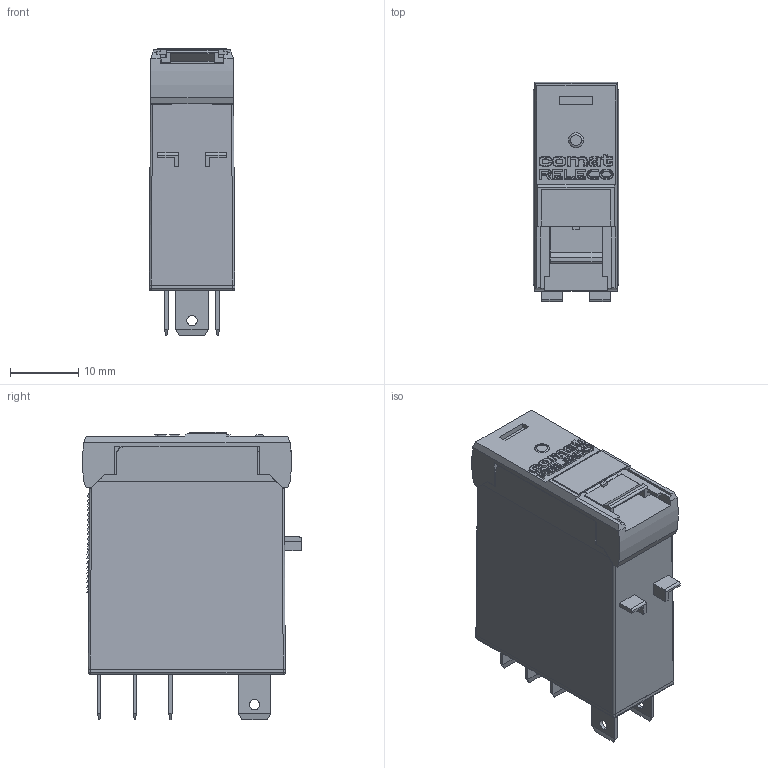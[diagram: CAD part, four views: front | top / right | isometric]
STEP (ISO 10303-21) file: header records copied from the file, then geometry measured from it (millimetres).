
FILE_DESCRIPTION (( 'STEP AP214' ), '1' );
FILE_NAME ('R10.STEP', '2024-03-26T09:46:25', ( '' ), ( '' ), 'SwSTEP 2.0', 'SolidWorks 2022', '' );
FILE_SCHEMA (( 'AUTOMOTIVE_DESIGN' ));
Length unit declared in the file: millimetre
Products named in the file (1): R10
Bounding box: 12.5 x 32.03 x 41.99 mm (x, y, z)
Volume: 12281.7 mm3; surface area: 4850.1 mm2
Topology: 1 solids, 1 shells, 1154 faces, 3158 edges, 2041 vertices
Faces by surface type: plane 923, cylinder 121, bspline 108, torus 2
Entity records: 39072 total; most frequent: CARTESIAN_POINT 10586, ORIENTED_EDGE 6308, DIRECTION 5089, EDGE_CURVE 3154, LINE 2777, VECTOR 2777, VERTEX_POINT 2041, EDGE_LOOP 1217
